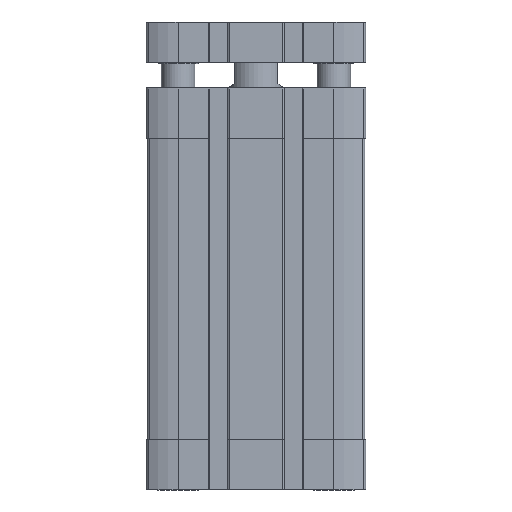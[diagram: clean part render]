
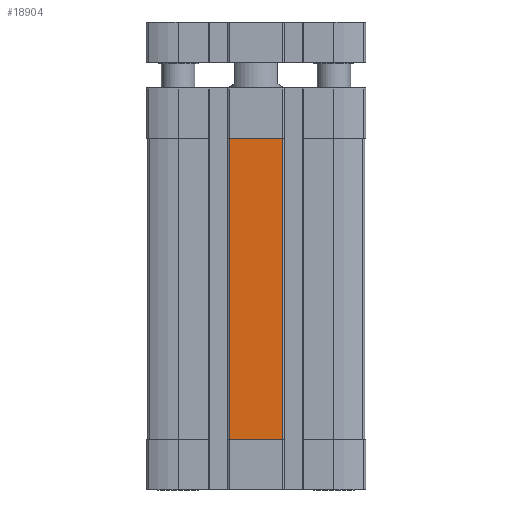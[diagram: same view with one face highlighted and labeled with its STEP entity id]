
A CAD part, left-side view. The second image highlights one B-rep face of the part: STEP entity #18904.
In plain terms, the highlighted planar face has unit normal (-1, 0, 0) as drawn and (0, 1, 0) by its records, which use the part's own axes.
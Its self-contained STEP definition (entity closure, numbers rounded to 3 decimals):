
#1097 = VECTOR ( 'NONE', #19926, 1000. ) ;
#1853 = DIRECTION ( 'NONE',  ( 0., 0., 1. ) ) ;
#2559 = VERTEX_POINT ( 'NONE', #17250 ) ;
#2749 = EDGE_CURVE ( 'NONE', #9428, #2559, #20457, .T. ) ;
#3630 = LINE ( 'NONE', #19727, #12595 ) ;
#4149 = DIRECTION ( 'NONE',  ( 0., 1., 0. ) ) ;
#4304 = ORIENTED_EDGE ( 'NONE', *, *, #19338, .T. ) ;
#5583 = FACE_OUTER_BOUND ( 'NONE', #12932, .T. ) ;
#5679 = ORIENTED_EDGE ( 'NONE', *, *, #22982, .T. ) ;
#7109 = CARTESIAN_POINT ( 'NONE',  ( -8., 32.5, -105. ) ) ;
#7344 = VERTEX_POINT ( 'NONE', #16270 ) ;
#8012 = ORIENTED_EDGE ( 'NONE', *, *, #2749, .T. ) ;
#8026 = VECTOR ( 'NONE', #19858, 1000. ) ;
#9428 = VERTEX_POINT ( 'NONE', #7109 ) ;
#10746 = CARTESIAN_POINT ( 'NONE',  ( 8., 32.5, -105. ) ) ;
#11022 = CARTESIAN_POINT ( 'NONE',  ( 8., 32.5, -105. ) ) ;
#11300 = CARTESIAN_POINT ( 'NONE',  ( 8., 32.5, -105. ) ) ;
#12557 = CARTESIAN_POINT ( 'NONE',  ( -8., 32.5, -105. ) ) ;
#12595 = VECTOR ( 'NONE', #17991, 1000. ) ;
#12660 = CARTESIAN_POINT ( 'NONE',  ( 8., 32.5, -105. ) ) ;
#12932 = EDGE_LOOP ( 'NONE', ( #5679, #8012, #4304, #14195 ) ) ;
#13108 = VERTEX_POINT ( 'NONE', #10746 ) ;
#14195 = ORIENTED_EDGE ( 'NONE', *, *, #14543, .T. ) ;
#14543 = EDGE_CURVE ( 'NONE', #7344, #13108, #17577, .T. ) ;
#14891 = PLANE ( 'NONE',  #20511 ) ;
#15338 = LINE ( 'NONE', #11022, #1097 ) ;
#16266 = VECTOR ( 'NONE', #1853, 1000. ) ;
#16270 = CARTESIAN_POINT ( 'NONE',  ( 8., 32.5, -15. ) ) ;
#16707 = DIRECTION ( 'NONE',  ( 0., 0., 1. ) ) ;
#17250 = CARTESIAN_POINT ( 'NONE',  ( -8., 32.5, -15. ) ) ;
#17577 = LINE ( 'NONE', #12660, #8026 ) ;
#17991 = DIRECTION ( 'NONE',  ( 1., 0., 0. ) ) ;
#18904 = ADVANCED_FACE ( 'NONE', ( #5583 ), #14891, .T. ) ;
#19338 = EDGE_CURVE ( 'NONE', #2559, #7344, #3630, .T. ) ;
#19727 = CARTESIAN_POINT ( 'NONE',  ( 0., 32.5, -15. ) ) ;
#19858 = DIRECTION ( 'NONE',  ( 0., 0., -1. ) ) ;
#19926 = DIRECTION ( 'NONE',  ( -1., 0., 0. ) ) ;
#20457 = LINE ( 'NONE', #12557, #16266 ) ;
#20511 = AXIS2_PLACEMENT_3D ( 'NONE', #11300, #4149, #16707 ) ;
#22982 = EDGE_CURVE ( 'NONE', #13108, #9428, #15338, .T. ) ;
